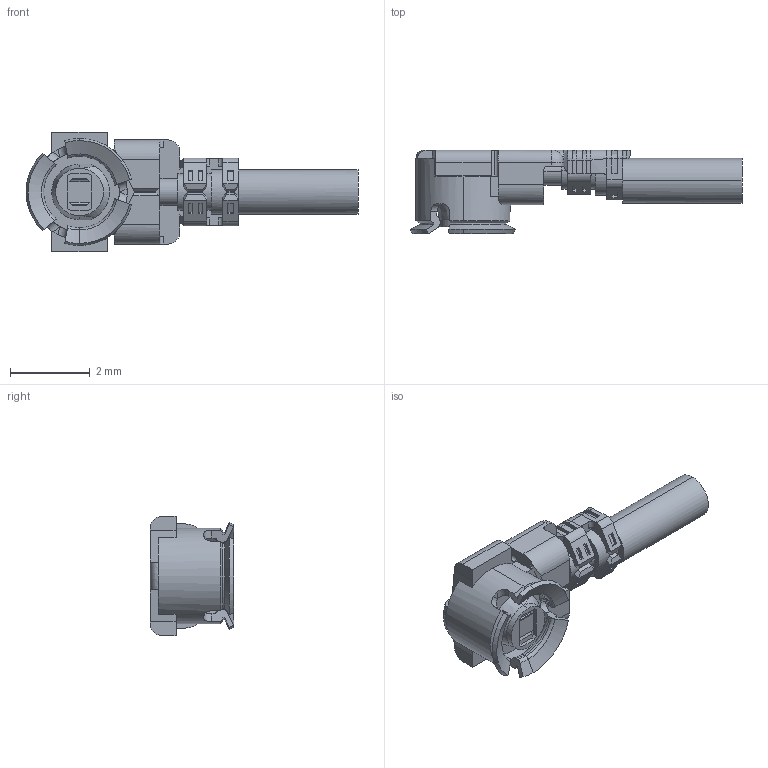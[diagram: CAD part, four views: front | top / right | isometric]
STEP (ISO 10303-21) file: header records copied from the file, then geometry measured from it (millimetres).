
FILE_DESCRIPTION (( 'STEP AP203' ), '1' );
FILE_NAME ('20278-1xxR-13C-1.13OD PLUG R16 STEP ALL.STEP', '2023-11-21T06:55:15', ( '' ), ( '' ), 'SwSTEP 2.0', 'SolidWorks 2023', '' );
FILE_SCHEMA (( 'CONFIG_CONTROL_DESIGN' ));
Length unit declared in the file: millimetre
Products named in the file (1): 20278-1xxR-13C-1.13OD PLUG R16 STEP ALL
Bounding box: 8.35 x 2.1 x 3 mm (x, y, z)
Volume: 17.6 mm3; surface area: 71.1 mm2
Topology: 1 solids, 1 shells, 370 faces, 1014 edges, 655 vertices
Faces by surface type: plane 216, cylinder 84, bspline 35, cone 22, torus 11, sphere 2
Entity records: 13145 total; most frequent: CARTESIAN_POINT 3961, ORIENTED_EDGE 2020, DIRECTION 1726, EDGE_CURVE 1010, LINE 666, VECTOR 666, VERTEX_POINT 655, AXIS2_PLACEMENT_3D 530
